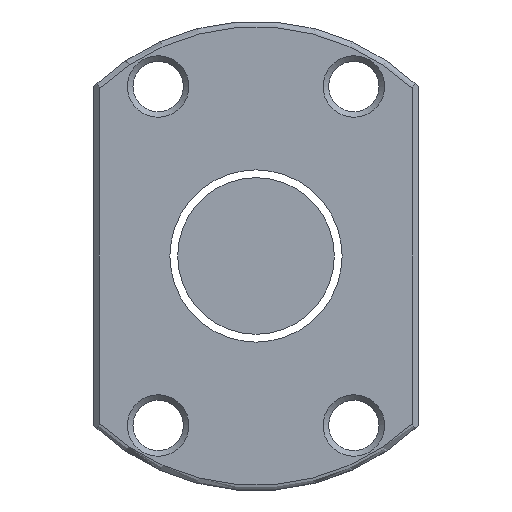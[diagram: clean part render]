
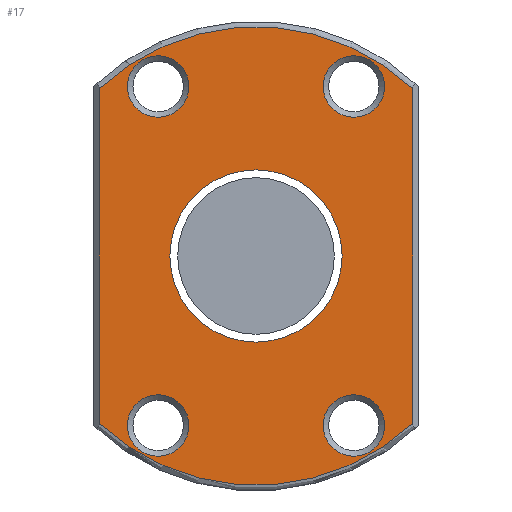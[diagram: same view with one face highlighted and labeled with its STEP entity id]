
A CAD part, left-side view. The second image highlights one B-rep face of the part: STEP entity #17.
In plain terms, the highlighted planar face has unit normal (-1, 0, 0).
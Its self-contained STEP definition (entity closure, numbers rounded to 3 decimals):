
#16 = CARTESIAN_POINT ( 'NONE',  ( -45., -8.75, -15.155 ) ) ;
#17 = ADVANCED_FACE ( 'NONE', ( #459, #104, #679, #536, #179, #946 ), #125, .T. ) ;
#29 = EDGE_CURVE ( 'NONE', #645, #645, #529, .T. ) ;
#33 = EDGE_CURVE ( 'NONE', #845, #763, #855, .T. ) ;
#36 = DIRECTION ( 'NONE',  ( 1., 0., 0. ) ) ;
#40 = DIRECTION ( 'NONE',  ( 1., 0., 0. ) ) ;
#41 = ORIENTED_EDGE ( 'NONE', *, *, #170, .T. ) ;
#47 = EDGE_LOOP ( 'NONE', ( #387, #41, #857, #747 ) ) ;
#80 = VERTEX_POINT ( 'NONE', #562 ) ;
#93 = AXIS2_PLACEMENT_3D ( 'NONE', #619, #755, #897 ) ;
#104 = FACE_BOUND ( 'NONE', #113, .T. ) ;
#113 = EDGE_LOOP ( 'NONE', ( #282 ) ) ;
#125 = PLANE ( 'NONE',  #826 ) ;
#132 = DIRECTION ( 'NONE',  ( 0., 0., -1. ) ) ;
#137 = CARTESIAN_POINT ( 'NONE',  ( -45., 6., 15.155 ) ) ;
#145 = VERTEX_POINT ( 'NONE', #224 ) ;
#153 = LINE ( 'NONE', #501, #649 ) ;
#159 = CARTESIAN_POINT ( 'NONE',  ( -45., 14., -14.975 ) ) ;
#170 = EDGE_CURVE ( 'NONE', #763, #212, #382, .T. ) ;
#179 = FACE_BOUND ( 'NONE', #184, .T. ) ;
#184 = EDGE_LOOP ( 'NONE', ( #486 ) ) ;
#191 = DIRECTION ( 'NONE',  ( 0., -1., 0. ) ) ;
#195 = EDGE_CURVE ( 'NONE', #212, #404, #153, .T. ) ;
#197 = AXIS2_PLACEMENT_3D ( 'NONE', #386, #528, #743 ) ;
#198 = CARTESIAN_POINT ( 'NONE',  ( -45., 0., 0. ) ) ;
#212 = VERTEX_POINT ( 'NONE', #313 ) ;
#224 = CARTESIAN_POINT ( 'NONE',  ( -45., -11.5, 15.155 ) ) ;
#229 = AXIS2_PLACEMENT_3D ( 'NONE', #16, #36, #672 ) ;
#234 = EDGE_CURVE ( 'NONE', #404, #845, #717, .T. ) ;
#236 = DIRECTION ( 'NONE',  ( -1., 0., 0. ) ) ;
#250 = VECTOR ( 'NONE', #132, 1000. ) ;
#272 = ORIENTED_EDGE ( 'NONE', *, *, #838, .T. ) ;
#282 = ORIENTED_EDGE ( 'NONE', *, *, #647, .T. ) ;
#286 = CARTESIAN_POINT ( 'NONE',  ( -45., 6., -15.155 ) ) ;
#308 = DIRECTION ( 'NONE',  ( 0., -1., 0. ) ) ;
#313 = CARTESIAN_POINT ( 'NONE',  ( -45., -14., -14.975 ) ) ;
#345 = CIRCLE ( 'NONE', #197, 2.75 ) ;
#351 = VERTEX_POINT ( 'NONE', #286 ) ;
#382 = CIRCLE ( 'NONE', #93, 20.5 ) ;
#386 = CARTESIAN_POINT ( 'NONE',  ( -45., -8.75, 15.155 ) ) ;
#387 = ORIENTED_EDGE ( 'NONE', *, *, #33, .T. ) ;
#388 = EDGE_CURVE ( 'NONE', #351, #351, #665, .T. ) ;
#404 = VERTEX_POINT ( 'NONE', #668 ) ;
#406 = CIRCLE ( 'NONE', #229, 2.75 ) ;
#459 = FACE_BOUND ( 'NONE', #852, .T. ) ;
#463 = AXIS2_PLACEMENT_3D ( 'NONE', #609, #40, #702 ) ;
#478 = CARTESIAN_POINT ( 'NONE',  ( -45., 8.75, -15.155 ) ) ;
#480 = CIRCLE ( 'NONE', #463, 2.75 ) ;
#486 = ORIENTED_EDGE ( 'NONE', *, *, #29, .T. ) ;
#501 = CARTESIAN_POINT ( 'NONE',  ( -45., -14., 0. ) ) ;
#528 = DIRECTION ( 'NONE',  ( 1., 0., 0. ) ) ;
#529 = CIRCLE ( 'NONE', #758, 7.7 ) ;
#536 = FACE_BOUND ( 'NONE', #861, .T. ) ;
#556 = DIRECTION ( 'NONE',  ( 1., 0., 0. ) ) ;
#560 = DIRECTION ( 'NONE',  ( 1., 0., 0. ) ) ;
#562 = CARTESIAN_POINT ( 'NONE',  ( -45., -11.5, -15.155 ) ) ;
#566 = CARTESIAN_POINT ( 'NONE',  ( -45., 7.7, 0. ) ) ;
#576 = AXIS2_PLACEMENT_3D ( 'NONE', #478, #560, #693 ) ;
#609 = CARTESIAN_POINT ( 'NONE',  ( -45., 8.75, 15.155 ) ) ;
#619 = CARTESIAN_POINT ( 'NONE',  ( -45., 0., 0. ) ) ;
#620 = AXIS2_PLACEMENT_3D ( 'NONE', #739, #236, #308 ) ;
#645 = VERTEX_POINT ( 'NONE', #566 ) ;
#647 = EDGE_CURVE ( 'NONE', #145, #145, #345, .T. ) ;
#649 = VECTOR ( 'NONE', #872, 1000. ) ;
#651 = VERTEX_POINT ( 'NONE', #137 ) ;
#665 = CIRCLE ( 'NONE', #576, 2.75 ) ;
#668 = CARTESIAN_POINT ( 'NONE',  ( -45., -14., 14.975 ) ) ;
#672 = DIRECTION ( 'NONE',  ( 0., -1., 0. ) ) ;
#679 = FACE_BOUND ( 'NONE', #933, .T. ) ;
#683 = EDGE_CURVE ( 'NONE', #80, #80, #406, .T. ) ;
#693 = DIRECTION ( 'NONE',  ( 0., -1., 0. ) ) ;
#699 = ORIENTED_EDGE ( 'NONE', *, *, #388, .T. ) ;
#701 = CARTESIAN_POINT ( 'NONE',  ( -45., 14., 0. ) ) ;
#702 = DIRECTION ( 'NONE',  ( 0., -1., 0. ) ) ;
#717 = CIRCLE ( 'NONE', #620, 20.5 ) ;
#739 = CARTESIAN_POINT ( 'NONE',  ( -45., 0., 0. ) ) ;
#743 = DIRECTION ( 'NONE',  ( 0., -1., 0. ) ) ;
#747 = ORIENTED_EDGE ( 'NONE', *, *, #234, .T. ) ;
#755 = DIRECTION ( 'NONE',  ( -1., 0., 0. ) ) ;
#758 = AXIS2_PLACEMENT_3D ( 'NONE', #198, #556, #931 ) ;
#763 = VERTEX_POINT ( 'NONE', #159 ) ;
#764 = CARTESIAN_POINT ( 'NONE',  ( -45., 21., 0. ) ) ;
#826 = AXIS2_PLACEMENT_3D ( 'NONE', #764, #847, #191 ) ;
#838 = EDGE_CURVE ( 'NONE', #651, #651, #480, .T. ) ;
#845 = VERTEX_POINT ( 'NONE', #906 ) ;
#847 = DIRECTION ( 'NONE',  ( -1., 0., 0. ) ) ;
#852 = EDGE_LOOP ( 'NONE', ( #908 ) ) ;
#855 = LINE ( 'NONE', #701, #250 ) ;
#857 = ORIENTED_EDGE ( 'NONE', *, *, #195, .T. ) ;
#861 = EDGE_LOOP ( 'NONE', ( #699 ) ) ;
#872 = DIRECTION ( 'NONE',  ( 0., 0., 1. ) ) ;
#897 = DIRECTION ( 'NONE',  ( 0., -1., 0. ) ) ;
#906 = CARTESIAN_POINT ( 'NONE',  ( -45., 14., 14.975 ) ) ;
#908 = ORIENTED_EDGE ( 'NONE', *, *, #683, .T. ) ;
#931 = DIRECTION ( 'NONE',  ( 0., 1., 0. ) ) ;
#933 = EDGE_LOOP ( 'NONE', ( #272 ) ) ;
#946 = FACE_OUTER_BOUND ( 'NONE', #47, .T. ) ;
